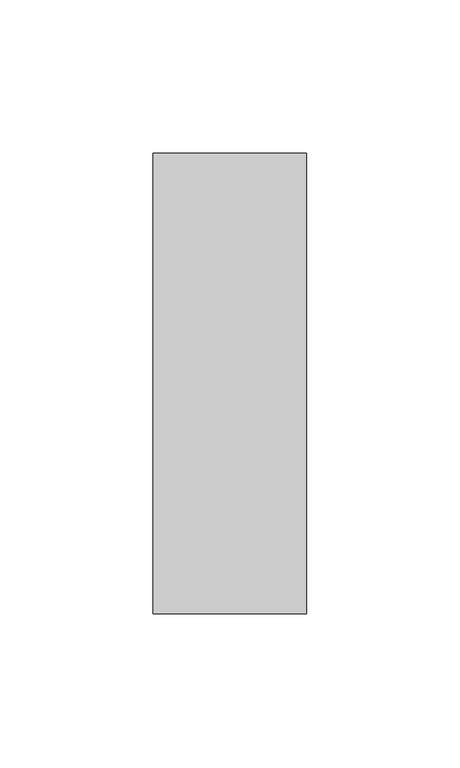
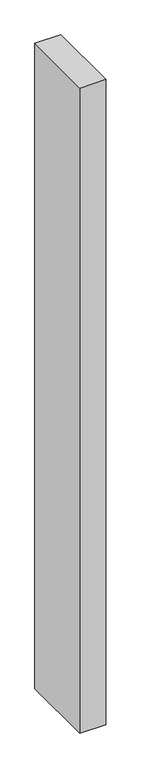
"""IFC4 building model written with IfcOpenShell, lengths in millimetres: member geometry, Прямоугольный импост : 50 x 150 мм."""

from ifc_helpers import new_model, si_unit, frame, origin, place, context, project, spatial, polyline, outline, extrude, source, transform, mapped, element, save


def member_515d1e70(model_context):
    return source(origin(), model_context, "Body", "SweptSolid", [
        extrude(outline(polyline([(25.0, 75.0), (25.0, -75.0), (-25.0, -75.0), (-25.0, 75.0), (25.0, 75.0)])), frame((0.0, 0.0, -1317.7005227), z_axis=(0.0, 0.0, 1.0), x_axis=(1.0, 0.0, 0.0)), (0.0, 0.0, 1.0), 1317.7005227),
    ])


if __name__ == "__main__":
    model = new_model("IFC4")
    model_context = context("Model", 3, world=origin())
    ifc_project = project(units=[si_unit("LENGTHUNIT", "METRE", prefix="MILLI")], contexts=[model_context])
    site = spatial("IfcSite", under=ifc_project)
    building = spatial("IfcBuilding", under=site)
    placement = place(None, origin())
    member_shape = member_515d1e70(model_context)
    element("IfcMember", 1, ObjectType="Прямоугольный импост : 50 x 150 мм", at=placement, inside=building, context=model_context, shape_type="MappedRepresentation", body=[
        mapped(member_shape, transform((0.0, 0.0, 0.0), x_axis=(1.0, 0.0, 0.0), y_axis=(0.0, 1.0, 0.0), z_axis=(0.0, 0.0, 1.0))),
    ])
    save(model, "model.ifc")
